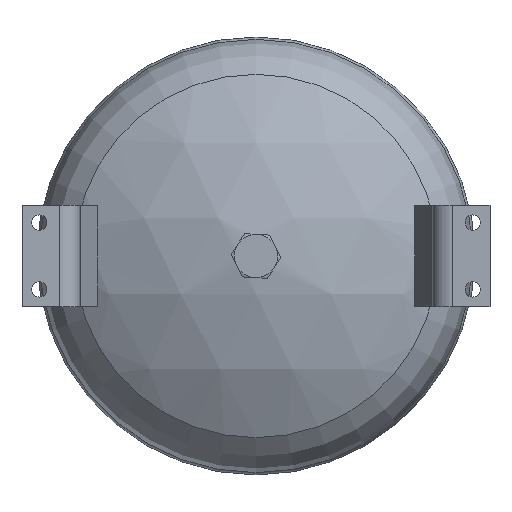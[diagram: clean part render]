
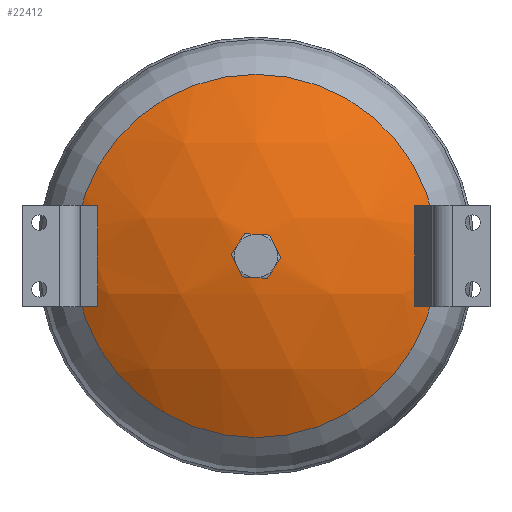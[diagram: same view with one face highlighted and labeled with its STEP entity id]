
A CAD part, front view. The second image highlights one B-rep face of the part: STEP entity #22412.
In plain terms, the highlighted spherical face has radius 244 mm.
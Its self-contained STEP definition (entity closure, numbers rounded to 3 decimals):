
#61=SPHERICAL_SURFACE('',#24092,244.);
#2551=FACE_BOUND('',#8333,.T.);
#2552=FACE_BOUND('',#8334,.T.);
#2553=FACE_BOUND('',#8335,.T.);
#6964=FACE_OUTER_BOUND('',#8332,.T.);
#8332=EDGE_LOOP('',(#20986));
#8333=EDGE_LOOP('',(#20987));
#8334=EDGE_LOOP('',(#20988,#20989,#20990,#20991));
#8335=EDGE_LOOP('',(#20992,#20993,#20994,#20995));
#8768=CIRCLE('',#23980,14.261);
#8784=CIRCLE('',#24018,29.537);
#8785=CIRCLE('',#24020,29.537);
#8786=CIRCLE('',#24022,243.161);
#8793=CIRCLE('',#24033,242.363);
#8800=CIRCLE('',#24051,29.537);
#8801=CIRCLE('',#24053,29.537);
#8802=CIRCLE('',#24055,243.161);
#8809=CIRCLE('',#24066,242.363);
#8819=CIRCLE('',#24091,125.773);
#10958=VERTEX_POINT('',#47916);
#10986=VERTEX_POINT('',#48060);
#10987=VERTEX_POINT('',#48061);
#10990=VERTEX_POINT('',#48069);
#10991=VERTEX_POINT('',#48070);
#11018=VERTEX_POINT('',#48155);
#11019=VERTEX_POINT('',#48156);
#11022=VERTEX_POINT('',#48164);
#11023=VERTEX_POINT('',#48165);
#11053=VERTEX_POINT('',#48260);
#14244=EDGE_CURVE('',#10958,#10958,#8768,.T.);
#14290=EDGE_CURVE('',#10986,#10987,#8784,.T.);
#14294=EDGE_CURVE('',#10990,#10991,#8785,.T.);
#14298=EDGE_CURVE('',#10987,#10990,#8786,.T.);
#14309=EDGE_CURVE('',#10991,#10986,#8793,.T.);
#14336=EDGE_CURVE('',#11018,#11019,#8800,.T.);
#14340=EDGE_CURVE('',#11022,#11023,#8801,.T.);
#14344=EDGE_CURVE('',#11019,#11022,#8802,.T.);
#14355=EDGE_CURVE('',#11023,#11018,#8809,.T.);
#14385=EDGE_CURVE('',#11053,#11053,#8819,.T.);
#20986=ORIENTED_EDGE('',*,*,#14385,.T.);
#20987=ORIENTED_EDGE('',*,*,#14244,.T.);
#20988=ORIENTED_EDGE('',*,*,#14298,.T.);
#20989=ORIENTED_EDGE('',*,*,#14294,.T.);
#20990=ORIENTED_EDGE('',*,*,#14309,.T.);
#20991=ORIENTED_EDGE('',*,*,#14290,.T.);
#20992=ORIENTED_EDGE('',*,*,#14344,.T.);
#20993=ORIENTED_EDGE('',*,*,#14340,.T.);
#20994=ORIENTED_EDGE('',*,*,#14355,.T.);
#20995=ORIENTED_EDGE('',*,*,#14336,.T.);
#22412=ADVANCED_FACE('',(#6964,#2551,#2552,#2553),#61,.T.);
#23980=AXIS2_PLACEMENT_3D('',#47917,#28740,#28741);
#24018=AXIS2_PLACEMENT_3D('',#48062,#28822,#28823);
#24020=AXIS2_PLACEMENT_3D('',#48071,#28829,#28830);
#24022=AXIS2_PLACEMENT_3D('',#48078,#28836,#28837);
#24033=AXIS2_PLACEMENT_3D('',#48101,#28862,#28863);
#24051=AXIS2_PLACEMENT_3D('',#48157,#28918,#28919);
#24053=AXIS2_PLACEMENT_3D('',#48166,#28925,#28926);
#24055=AXIS2_PLACEMENT_3D('',#48173,#28932,#28933);
#24066=AXIS2_PLACEMENT_3D('',#48196,#28958,#28959);
#24091=AXIS2_PLACEMENT_3D('',#48261,#29028,#29029);
#24092=AXIS2_PLACEMENT_3D('',#48262,#29030,#29031);
#28740=DIRECTION('center_axis',(0.,1.,0.));
#28741=DIRECTION('ref_axis',(0.,0.,1.));
#28822=DIRECTION('center_axis',(0.375,0.927,0.));
#28823=DIRECTION('ref_axis',(0.,0.,-1.));
#28829=DIRECTION('center_axis',(0.375,0.927,0.));
#28830=DIRECTION('ref_axis',(0.,0.,-1.));
#28836=DIRECTION('center_axis',(0.927,-0.375,0.));
#28837=DIRECTION('ref_axis',(0.,0.,1.));
#28862=DIRECTION('center_axis',(-0.927,0.375,0.));
#28863=DIRECTION('ref_axis',(0.,0.,-1.));
#28918=DIRECTION('center_axis',(-0.375,0.927,0.));
#28919=DIRECTION('ref_axis',(0.,0.,-1.));
#28925=DIRECTION('center_axis',(-0.375,0.927,0.));
#28926=DIRECTION('ref_axis',(0.,0.,-1.));
#28932=DIRECTION('center_axis',(-0.927,-0.375,0.));
#28933=DIRECTION('ref_axis',(0.,0.,-1.));
#28958=DIRECTION('center_axis',(0.927,0.375,0.));
#28959=DIRECTION('ref_axis',(0.,0.,1.));
#29028=DIRECTION('center_axis',(0.,-1.,0.));
#29029=DIRECTION('ref_axis',(-1.,0.,0.));
#29030=DIRECTION('center_axis',(0.,0.,-1.));
#29031=DIRECTION('ref_axis',(1.,0.,0.));
#47916=CARTESIAN_POINT('',(-14.261,-160.483,0.));
#47917=CARTESIAN_POINT('Origin',(0.,-160.483,
0.));
#48060=CARTESIAN_POINT('',(-116.891,-130.9,8.741));
#48061=CARTESIAN_POINT('',(-109.474,-133.897,21.537));
#48062=CARTESIAN_POINT('Origin',(-90.732,-141.469,0.));
#48069=CARTESIAN_POINT('',(-109.474,-133.897,-21.537));
#48070=CARTESIAN_POINT('',(-116.891,-130.9,-8.741));
#48071=CARTESIAN_POINT('Origin',(-90.732,-141.469,0.));
#48078=CARTESIAN_POINT('Origin',(-18.742,90.672,0.));
#48101=CARTESIAN_POINT('Origin',(-26.16,93.669,0.));
#48155=CARTESIAN_POINT('',(116.891,-130.9,-8.741));
#48156=CARTESIAN_POINT('',(109.474,-133.897,-21.537));
#48157=CARTESIAN_POINT('Origin',(90.732,-141.469,0.));
#48164=CARTESIAN_POINT('',(109.474,-133.897,21.537));
#48165=CARTESIAN_POINT('',(116.891,-130.9,8.741));
#48166=CARTESIAN_POINT('Origin',(90.732,-141.469,0.));
#48173=CARTESIAN_POINT('Origin',(18.742,90.672,0.));
#48196=CARTESIAN_POINT('Origin',(26.16,93.669,0.));
#48260=CARTESIAN_POINT('',(-125.773,-125.986,0.));
#48261=CARTESIAN_POINT('Origin',(0.,-125.986,
0.));
#48262=CARTESIAN_POINT('Origin',(0.,83.1,
0.));
